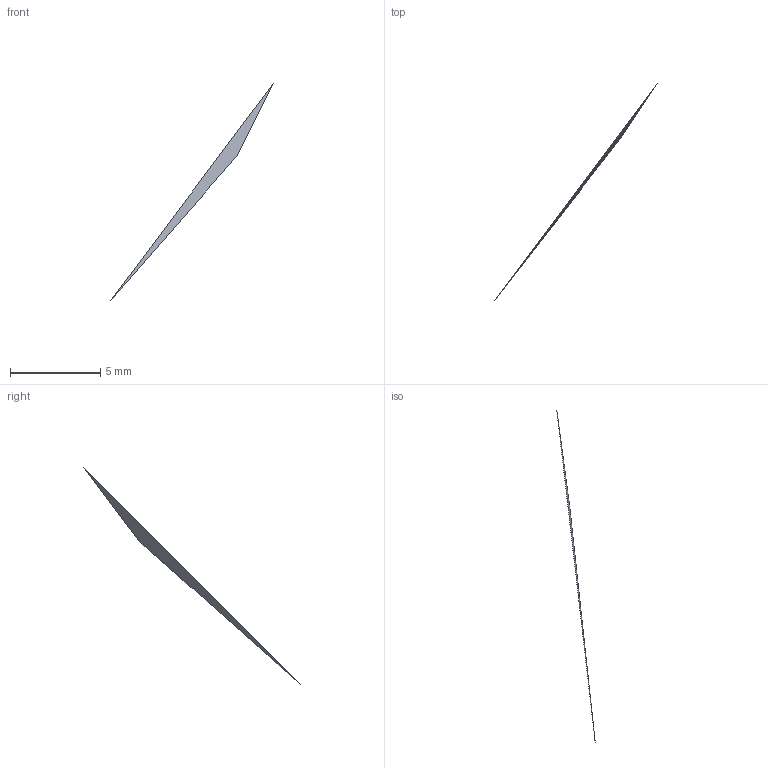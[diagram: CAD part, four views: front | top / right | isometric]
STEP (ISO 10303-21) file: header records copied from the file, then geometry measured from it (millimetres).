
FILE_DESCRIPTION(/* description */ (''),/* implementation_level */ '2;1');
FILE_NAME(/* name */ 'FLCHE~1',/* time_stamp */ '2019-09-05T14:10:08+02:00',/* author */ (''),/* organization */ (''),/* preprocessor_version */ 'ST-DEVELOPER v16.5',/* originating_system */ '',/* authorisation */ '');
FILE_SCHEMA (('AUTOMOTIVE_DESIGN'));
Length unit declared in the file: millimetre
Products named in the file (1): Document
Bounding box: 9 x 12 x 12 mm (x, y, z)
Surface area: 8.6 mm2 (no closed solid volume)
Topology: 0 solids, 1 shells, 1 faces, 3 edges, 3 vertices
Faces by surface type: bspline 1
Entity records: 56 total; most frequent: CARTESIAN_POINT 15, DIRECTION 4, ORIENTED_EDGE 3, EDGE_CURVE 3, B_SPLINE_CURVE_WITH_KNOTS 3, VERTEX_POINT 3, AXIS2_PLACEMENT_3D 2, SHAPE_REPRESENTATION_RELATIONSHIP 1
